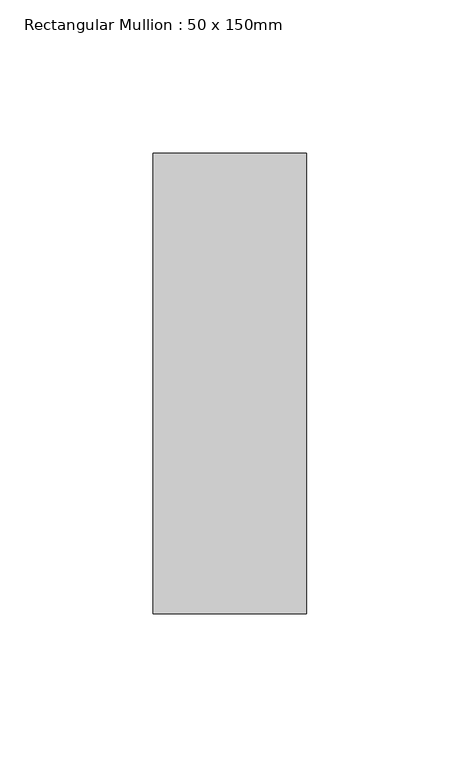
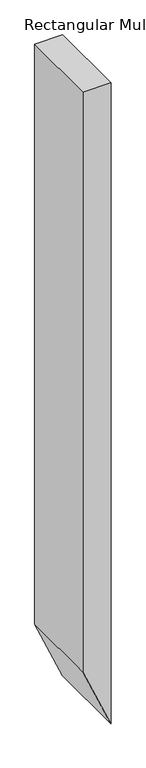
"""IFC4 building model written with IfcOpenShell, lengths in millimetres: member geometry, Rectangular Mullion : 50 x 150mm."""

from ifc_helpers import new_model, si_unit, frame, origin, place, context, project, spatial, polyline, outline, extrude, source, transform, mapped, element, save


def rectangular_mullion_50_x_150mm_027a3e5d(model_context):
    return source(origin(), model_context, "Body", "SweptSolid", [
        extrude(outline(polyline([(0.0, 0.0), (0.0, -50.0), (-1098.4610759, -50.0), (-1213.4952582, 0.0), (0.0, 0.0)])), frame((0.0, -75.0, 0.0), z_axis=(0.0, 1.0, 0.0), x_axis=(0.0, 0.0, 1.0)), (0.0, 0.0, 1.0), 150.0),
    ])


if __name__ == "__main__":
    model = new_model("IFC4")
    model_context = context("Model", 3, world=origin())
    ifc_project = project(units=[si_unit("LENGTHUNIT", "METRE", prefix="MILLI")], contexts=[model_context])
    site = spatial("IfcSite", under=ifc_project)
    building = spatial("IfcBuilding", under=site)
    placement = place(None, origin())
    rectangular_mullion_50_x_150mm_shape = rectangular_mullion_50_x_150mm_027a3e5d(model_context)
    element("IfcMember", 1, ObjectType="Rectangular Mullion : 50 x 150mm", at=placement, inside=building, context=model_context, shape_type="MappedRepresentation", body=[
        mapped(rectangular_mullion_50_x_150mm_shape, transform((0.0, 0.0, 0.0), x_axis=(1.0, 0.0, 0.0), y_axis=(0.0, 1.0, 0.0), z_axis=(0.0, 0.0, 1.0))),
    ])
    save(model, "model.ifc")
